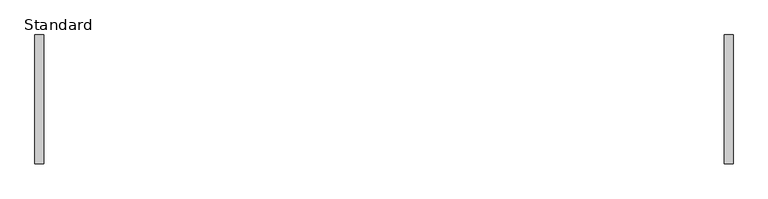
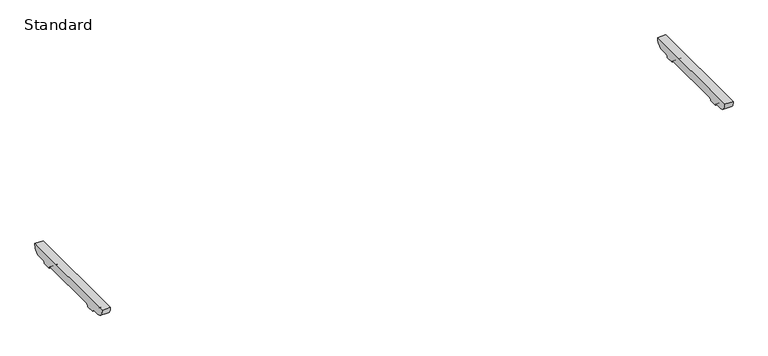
"""IFC4 building model written with IfcOpenShell, lengths in millimetres: furniture geometry, BDG_BossDesign_Tbls_AgentTables4Legs_Nested : Standard."""

from ifc_helpers import new_model, si_unit, point, frame, frame_2d, origin, place, context, project, spatial, polyline, circle_curve, trimmed, segment, composite_curve, outline, extrude, source, transform, mapped, element, save


def standard_30ef5b83(model_context):
    return source(origin(), model_context, "Body", "SweptSolid", [
        extrude(outline(composite_curve([segment(polyline([(280.5450184, 672.0), (242.7000122, 672.0)]), True, "CONTINUOUS"), segment(trimmed(circle_curve(frame_2d((242.7000122, 660.0)), 12.0), [point((242.7000122, 672.0))], [point((230.7000122, 660.0))], True, "CARTESIAN"), True, "CONTINUOUS"), segment(polyline([(230.7000122, 660.0), (185.7000122, 660.0)]), True, "CONTINUOUS"), segment(trimmed(circle_curve(frame_2d((173.7000122, 660.0)), 12.0), [point((185.7000122, 660.0))], [point((173.7000122, 672.0))], True, "CARTESIAN"), True, "CONTINUOUS"), segment(polyline([(173.7000122, 672.0), (-173.7000122, 672.0)]), True, "CONTINUOUS"), segment(trimmed(circle_curve(frame_2d((-173.7000122, 660.0)), 12.0), [point((-173.7000122, 672.0))], [point((-185.7000122, 660.0))], True, "CARTESIAN"), True, "CONTINUOUS"), segment(polyline([(-185.7000122, 660.0), (-230.7000122, 660.0)]), True, "CONTINUOUS"), segment(trimmed(circle_curve(frame_2d((-242.7000122, 660.0)), 12.0), [point((-230.7000122, 660.0))], [point((-242.7000122, 672.0))], True, "CARTESIAN"), True, "CONTINUOUS"), segment(polyline([(-242.7000122, 672.0), (-280.5450184, 672.0)]), True, "CONTINUOUS"), segment(trimmed(circle_curve(frame_2d((-278.2220439, 716.5514119)), 44.6119324), [point((-280.5450184, 672.0))], [point((-322.5, 722.0))], False, "CARTESIAN"), True, "CONTINUOUS"), segment(polyline([(-322.5, 722.0), (322.5, 722.0)]), True, "CONTINUOUS"), segment(trimmed(circle_curve(frame_2d((278.2220439, 716.5514119)), 44.6119324), [point((322.5, 722.0))], [point((280.5450184, 672.0))], False, "CARTESIAN"), True, "CONTINUOUS")], self_intersect=False)), frame((1705.0, 0.0, 0.0), z_axis=(1.0, 0.0, 0.0), x_axis=(0.0, 1.0, 0.0)), (0.0, 0.0, 1.0), 45.0),
        extrude(outline(composite_curve([segment(polyline([(280.5450184, 672.0), (242.7000122, 672.0)]), True, "CONTINUOUS"), segment(trimmed(circle_curve(frame_2d((242.7000122, 660.0)), 12.0), [point((242.7000122, 672.0))], [point((230.7000122, 660.0))], True, "CARTESIAN"), True, "CONTINUOUS"), segment(polyline([(230.7000122, 660.0), (185.7000122, 660.0)]), True, "CONTINUOUS"), segment(trimmed(circle_curve(frame_2d((173.7000122, 660.0)), 12.0), [point((185.7000122, 660.0))], [point((173.7000122, 672.0))], True, "CARTESIAN"), True, "CONTINUOUS"), segment(polyline([(173.7000122, 672.0), (-173.7000122, 672.0)]), True, "CONTINUOUS"), segment(trimmed(circle_curve(frame_2d((-173.7000122, 660.0)), 12.0), [point((-173.7000122, 672.0))], [point((-185.7000122, 660.0))], True, "CARTESIAN"), True, "CONTINUOUS"), segment(polyline([(-185.7000122, 660.0), (-230.7000122, 660.0)]), True, "CONTINUOUS"), segment(trimmed(circle_curve(frame_2d((-242.7000122, 660.0)), 12.0), [point((-230.7000122, 660.0))], [point((-242.7000122, 672.0))], True, "CARTESIAN"), True, "CONTINUOUS"), segment(polyline([(-242.7000122, 672.0), (-280.5450184, 672.0)]), True, "CONTINUOUS"), segment(trimmed(circle_curve(frame_2d((-278.2220439, 716.5514119)), 44.6119324), [point((-280.5450184, 672.0))], [point((-322.5, 722.0))], False, "CARTESIAN"), True, "CONTINUOUS"), segment(polyline([(-322.5, 722.0), (322.5, 722.0)]), True, "CONTINUOUS"), segment(trimmed(circle_curve(frame_2d((278.2220439, 716.5514119)), 44.6119324), [point((322.5, 722.0))], [point((280.5450184, 672.0))], False, "CARTESIAN"), True, "CONTINUOUS")], self_intersect=False)), frame((-1750.0, 0.0, 0.0), z_axis=(1.0, 0.0, 0.0), x_axis=(0.0, 1.0, 0.0)), (0.0, 0.0, 1.0), 45.0),
    ])


if __name__ == "__main__":
    model = new_model("IFC4")
    model_context = context("Model", 3, world=origin())
    ifc_project = project(units=[si_unit("LENGTHUNIT", "METRE", prefix="MILLI")], contexts=[model_context])
    site = spatial("IfcSite", under=ifc_project)
    building = spatial("IfcBuilding", under=site)
    placement = place(None, origin())
    standard_shape = standard_30ef5b83(model_context)
    element("IfcFurniture", 1, ObjectType="BDG_BossDesign_Tbls_AgentTables4Legs_Nested : Standard", at=placement, inside=building, context=model_context, shape_type="MappedRepresentation", body=[
        mapped(standard_shape, transform((0.0, 0.0, 0.0), x_axis=(1.0, 0.0, 0.0), y_axis=(0.0, 1.0, 0.0), z_axis=(0.0, 0.0, 1.0))),
    ])
    save(model, "model.ifc")
